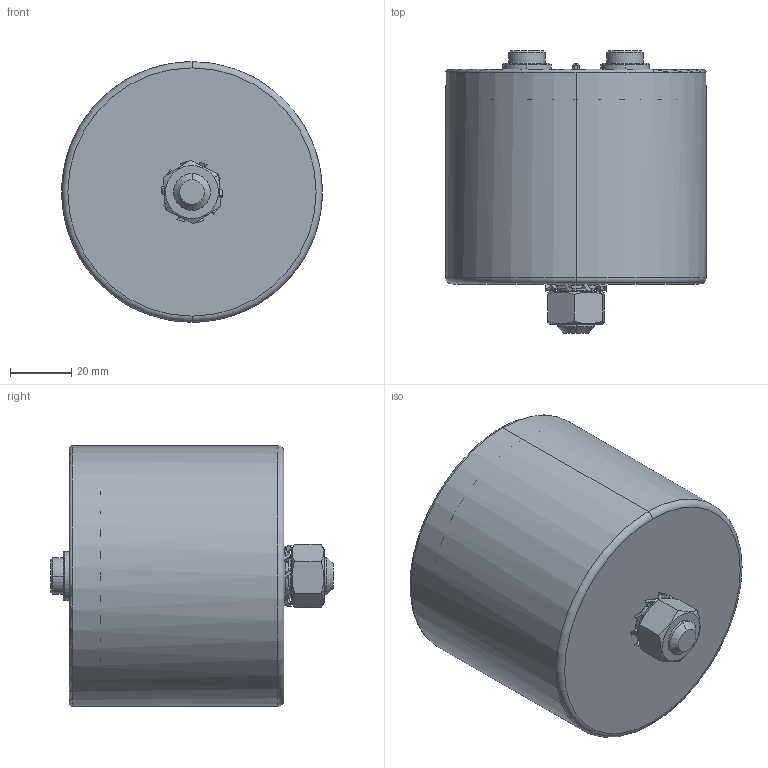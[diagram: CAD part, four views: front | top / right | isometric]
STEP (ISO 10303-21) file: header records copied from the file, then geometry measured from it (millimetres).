
FILE_DESCRIPTION (( 'STEP AP214' ), '1' );
FILE_NAME ('B25695 D85 Hc70 Ht76.STEP', '2024-06-04T08:53:37', ( '' ), ( '' ), 'SwSTEP 2.0', 'SolidWorks 2019', '' );
FILE_SCHEMA (( 'AUTOMOTIVE_DESIGN' ));
Length unit declared in the file: millimetre
Products named in the file (1): B25695 D85 Hc70 Ht76
Bounding box: 85 x 92 x 85 mm (x, y, z)
Volume: 101592.6 mm3; surface area: 74535.6 mm2
Topology: 1 solids, 2 shells, 275 faces, 754 edges, 488 vertices
Faces by surface type: plane 88, cylinder 70, cone 47, bspline 40, torus 30
Entity records: 9636 total; most frequent: CARTESIAN_POINT 3070, ORIENTED_EDGE 1500, DIRECTION 1212, EDGE_CURVE 750, VERTEX_POINT 488, AXIS2_PLACEMENT_3D 472, EDGE_LOOP 304, FACE_OUTER_BOUND 275
